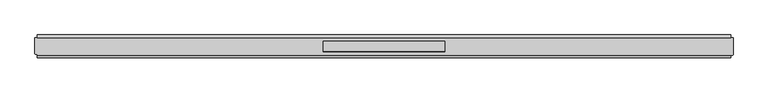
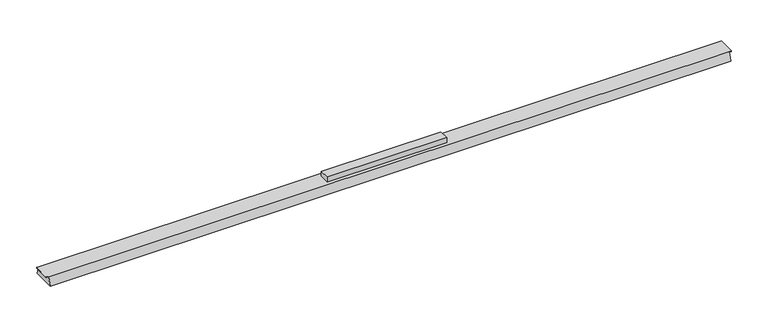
"""IFC4 building model written with IfcOpenShell, lengths in millimetres: light fixture geometry, GENILED_Светильник светодиодный_Retail Basic : Retail Basic 2006x66x25 40Вт Опал."""

from ifc_helpers import new_model, si_unit, frame, origin, place, context, project, spatial, circle_curve, source, transform, mapped, element, save
from ifc_brep_helpers import plane_surface, cylinder_surface, advanced_brep


def light_fixture_e95786d1(model_context):
    return source(origin(), model_context, "Body", "AdvancedBrep", [
        advanced_brep(
        [(1003.0, 25.5, 25.0), (-1003.0, 25.5, 25.0), (-1008.0, 25.5, 25.0), (-1010.0, 23.5, 25.0), (-1010.0, -21.0, 25.0), (-1008.0, -23.0, 25.0), (-1003.0, -23.0, 25.0), (-1003.0, -25.5, 25.0), (1003.0, -25.5, 25.0), (1008.0, -25.5, 25.0), (1010.0, -23.5, 25.0), (1010.0, 23.5, 25.0), (1008.0, 25.5, 25.0), (-176.0, 15.0, 25.0), (176.0, 15.0, 25.0), (176.0, -15.0, 25.0), (-176.0, -15.0, 25.0), (1003.0, 33.0, 0.0), (1003.0, -33.0, 0.0), (-1003.0, -33.0, 0.0), (-1003.0, 33.0, 0.0), (-1003.0, -23.0, 24.0), (-1003.0, 25.5, 24.0), (1003.0, 25.5, 24.0), (1003.0, -25.5, 24.0), (176.0, 15.0, 40.0), (-176.0, 15.0, 40.0), (-176.0, -15.0, 40.0), (176.0, -15.0, 40.0), (1008.0, 25.5, 24.0), (1010.0, 23.5, 24.0), (1010.0, -23.5, 24.0), (1008.0, -25.5, 24.0), (-1008.0, -23.0, 24.0), (-1010.0, -21.0, 24.0), (-1010.0, 23.5, 24.0), (-1008.0, 25.5, 24.0)],
        [
            (0, 1),
            (1, 2),
            (2, 3, circle_curve(frame((-1008.0, 23.5, 25.0), z_axis=(0.0, 0.0, 1.0), x_axis=(1.0, 0.0, 0.0)), 2.0)),
            (3, 4),
            (4, 5, circle_curve(frame((-1008.0, -21.0, 25.0), z_axis=(0.0, 0.0, 1.0), x_axis=(1.0, 0.0, 0.0)), 2.0)),
            (5, 6),
            (6, 7),
            (7, 8),
            (8, 9),
            (9, 10, circle_curve(frame((1008.0, -23.5, 25.0), z_axis=(0.0, 0.0, 1.0), x_axis=(1.0, 0.0, 0.0)), 2.0)),
            (10, 11),
            (11, 12, circle_curve(frame((1008.0, 23.5, 25.0), z_axis=(0.0, 0.0, 1.0), x_axis=(1.0, 0.0, 0.0)), 2.0)),
            (12, 0),
            (13, 14),
            (14, 15),
            (15, 16),
            (16, 13),
            (17, 18),
            (18, 19),
            (19, 20),
            (20, 17),
            (0, 17),
            (20, 1),
            (19, 7),
            (6, 21),
            (21, 22),
            (22, 1),
            (18, 8),
            (0, 23),
            (23, 24),
            (24, 8),
            (25, 26),
            (26, 27),
            (27, 28),
            (28, 25),
            (25, 14),
            (13, 26),
            (16, 27),
            (15, 28),
            (29, 30, circle_curve(frame((1008.0, 23.5, 24.0), z_axis=(0.0, 0.0, -1.0), x_axis=(1.0, 0.0, 0.0)), 2.0)),
            (30, 31),
            (31, 32, circle_curve(frame((1008.0, -23.5, 24.0), z_axis=(0.0, 0.0, -1.0), x_axis=(1.0, 0.0, 0.0)), 2.0)),
            (32, 24),
            (23, 29),
            (12, 29),
            (32, 9),
            (31, 10),
            (30, 11),
            (21, 33),
            (33, 34, circle_curve(frame((-1008.0, -21.0, 24.0), z_axis=(0.0, 0.0, -1.0), x_axis=(1.0, 0.0, 0.0)), 2.0)),
            (34, 35),
            (35, 36, circle_curve(frame((-1008.0, 23.5, 24.0), z_axis=(0.0, 0.0, -1.0), x_axis=(1.0, 0.0, 0.0)), 2.0)),
            (36, 22),
            (36, 2),
            (35, 3),
            (34, 4),
            (33, 5),
        ],
        [
            plane_surface(frame((0.0, 0.0, 25.0), z_axis=(0.0, 0.0, 1.0), x_axis=(-1.0, 0.0, 0.0))),
            plane_surface(frame((0.0, 0.0, 0.0), z_axis=(0.0, 0.0, -1.0), x_axis=(-1.0, 0.0, 0.0))),
            plane_surface(frame((0.0, 33.0, 0.0), z_axis=(0.0, 0.9578262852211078, 0.28734788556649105), x_axis=(-1.0, 0.0, 0.0))),
            plane_surface(frame((-1003.0, 0.0, 0.0), z_axis=(-1.0, 0.0, 0.0), x_axis=(0.0, -1.0, 0.0))),
            plane_surface(frame((0.0, -33.0, 0.0), z_axis=(0.0, -0.957826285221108, 0.2873478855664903), x_axis=(1.0, 0.0, 0.0))),
            plane_surface(frame((1003.0, 0.0, 0.0), z_axis=(1.0, 0.0, 0.0), x_axis=(0.0, 1.0, 0.0))),
            plane_surface(frame((-176.0, 15.0, 40.0), z_axis=(0.0, 0.0, 1.0), x_axis=(-1.0, 0.0, 0.0))),
            plane_surface(frame((176.0, 15.0, 40.0), z_axis=(0.0, 1.0, 0.0), x_axis=(0.0, 0.0, -1.0))),
            plane_surface(frame((-176.0, 15.0, 40.0), z_axis=(-1.0, 0.0, 0.0), x_axis=(0.0, 0.0, -1.0))),
            plane_surface(frame((-176.0, -15.0, 40.0), z_axis=(0.0, -1.0, 0.0), x_axis=(0.0, 0.0, -1.0))),
            plane_surface(frame((176.0, -15.0, 40.0), z_axis=(1.0, 0.0, 0.0), x_axis=(0.0, 0.0, -1.0))),
            plane_surface(frame((1003.0, 25.5, 24.0), z_axis=(0.0, 0.0, -1.0), x_axis=(1.0, 0.0, 0.0))),
            plane_surface(frame((1008.0, 25.5, 25.0), z_axis=(0.0, 1.0, 0.0), x_axis=(0.0, 0.0, -1.0))),
            plane_surface(frame((1003.0, -25.5, 25.0), z_axis=(0.0, -1.0, 0.0), x_axis=(0.0, 0.0, -1.0))),
            cylinder_surface(frame((1008.0, -23.5, 24.0), z_axis=(0.0, 0.0, 1.0), x_axis=(1.0, 0.0, 0.0)), 2.0),
            plane_surface(frame((1010.0, -23.5, 25.0), z_axis=(1.0, 0.0, 0.0), x_axis=(0.0, 0.0, -1.0))),
            cylinder_surface(frame((1008.0, 23.5, 24.0), z_axis=(0.0, 0.0, 1.0), x_axis=(1.0, 0.0, 0.0)), 2.0),
            plane_surface(frame((-1008.0, 25.5, 24.0), z_axis=(0.0, 0.0, -1.0), x_axis=(1.0, 0.0, 0.0))),
            plane_surface(frame((-1003.0, 25.5, 25.0), z_axis=(0.0, 1.0, 0.0), x_axis=(0.0, 0.0, -1.0))),
            cylinder_surface(frame((-1008.0, 23.5, 24.0), z_axis=(0.0, 0.0, 1.0), x_axis=(1.0, 0.0, 0.0)), 2.0),
            plane_surface(frame((-1010.0, 23.5, 25.0), z_axis=(-1.0, 0.0, 0.0), x_axis=(0.0, 0.0, -1.0))),
            cylinder_surface(frame((-1008.0, -21.0, 24.0), z_axis=(0.0, 0.0, 1.0), x_axis=(1.0, 0.0, 0.0)), 2.0),
            plane_surface(frame((-1008.0, -23.0, 25.0), z_axis=(0.0, -1.0, 0.0), x_axis=(0.0, 0.0, -1.0))),
        ],
        [
            (0, [[1, 2, 3, 4, 5, 6, 7, 8, 9, 10, 11, 12, 13], [14, 15, 16, 17]]),
            (1, [[18, 19, 20, 21]]),
            (2, [[-1, 22, -21, 23]]),
            (3, [[-20, 24, -7, 25, 26, 27, -23]]),
            (4, [[-8, -24, -19, 28]]),
            (5, [[-18, -22, 29, 30, 31, -28]]),
            (6, [[32, 33, 34, 35]]),
            (7, [[-32, 36, -14, 37]]),
            (8, [[-33, -37, -17, 38]]),
            (9, [[-34, -38, -16, 39]]),
            (10, [[-35, -39, -15, -36]]),
            (11, [[40, 41, 42, 43, -30, 44]]),
            (12, [[-13, 45, -44, -29]]),
            (13, [[-9, -31, -43, 46]]),
            (14, [[-10, -46, -42, 47]]),
            (15, [[-11, -47, -41, 48]]),
            (16, [[-12, -48, -40, -45]]),
            (17, [[49, 50, 51, 52, 53, -26]]),
            (18, [[-2, -27, -53, 54]]),
            (19, [[-3, -54, -52, 55]]),
            (20, [[-4, -55, -51, 56]]),
            (21, [[-5, -56, -50, 57]]),
            (22, [[-6, -57, -49, -25]]),
        ],
    ),
    ])


if __name__ == "__main__":
    model = new_model("IFC4")
    model_context = context("Model", 3, world=origin())
    ifc_project = project(units=[si_unit("LENGTHUNIT", "METRE", prefix="MILLI")], contexts=[model_context])
    site = spatial("IfcSite", under=ifc_project)
    building = spatial("IfcBuilding", under=site)
    placement = place(None, origin())
    light_fixture_shape = light_fixture_e95786d1(model_context)
    element("IfcLightFixture", 1, ObjectType="GENILED_Светильник светодиодный_Retail Basic : Retail Basic 2006x66x25 40Вт Опал", at=placement, inside=building, context=model_context, shape_type="MappedRepresentation", body=[
        mapped(light_fixture_shape, transform((0.0, 0.0, 0.0), x_axis=(1.0, 0.0, 0.0), y_axis=(0.0, 1.0, 0.0), z_axis=(0.0, 0.0, 1.0))),
    ])
    save(model, "model.ifc")
